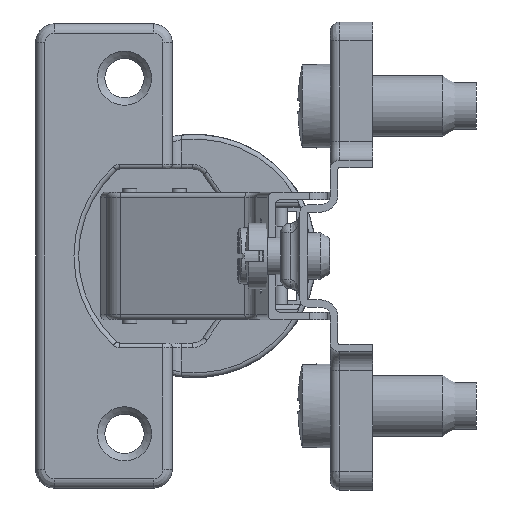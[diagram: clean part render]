
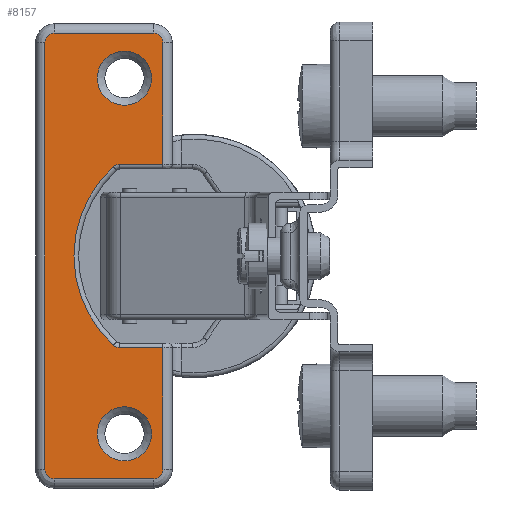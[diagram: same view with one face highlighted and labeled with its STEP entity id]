
A CAD part, left-side view. The second image highlights one B-rep face of the part: STEP entity #8157.
In plain terms, the highlighted planar face has unit normal (-1, 0, 0) as drawn and (0.111, 0.994, 0) by its records, which use the part's own axes.
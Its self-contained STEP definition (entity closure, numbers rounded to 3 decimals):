
#674=LINE('',#13801,#1262);
#688=LINE('',#13929,#1276);
#718=LINE('',#14016,#1306);
#719=LINE('',#14035,#1307);
#721=LINE('',#14055,#1309);
#723=LINE('',#14075,#1311);
#725=LINE('',#14091,#1313);
#1262=VECTOR('',#10973,4.611);
#1276=VECTOR('',#11087,4.611);
#1306=VECTOR('',#11181,13.);
#1307=VECTOR('',#11192,10.6);
#1309=VECTOR('',#11204,45.6);
#1311=VECTOR('',#11216,10.6);
#1313=VECTOR('',#11226,13.);
#1544=PLANE('',#9042);
#1640=FACE_BOUND('',#2555,.T.);
#1641=FACE_BOUND('',#2556,.T.);
#2047=FACE_OUTER_BOUND('',#2554,.T.);
#2554=EDGE_LOOP('',(#6822,#6823,#6824,#6825,#6826,#6827,#6828,#6829,#6830,
#6831,#6832,#6833,#6834,#6835));
#2555=EDGE_LOOP('',(#6836));
#2556=EDGE_LOOP('',(#6837));
#2991=CIRCLE('',#8907,1.);
#3009=CIRCLE('',#8935,1.);
#3011=CIRCLE('',#8939,12.9);
#3034=CIRCLE('',#8985,2.9);
#3036=CIRCLE('',#8988,2.9);
#3040=CIRCLE('',#8995,1.);
#3044=CIRCLE('',#9000,1.);
#3048=CIRCLE('',#9005,1.);
#3052=CIRCLE('',#9010,1.);
#3651=VERTEX_POINT('',#13784);
#3653=VERTEX_POINT('',#13788);
#3657=VERTEX_POINT('',#13799);
#3668=VERTEX_POINT('',#13857);
#3670=VERTEX_POINT('',#13861);
#3683=VERTEX_POINT('',#13924);
#3700=VERTEX_POINT('',#13992);
#3702=VERTEX_POINT('',#13997);
#3708=VERTEX_POINT('',#14014);
#3710=VERTEX_POINT('',#14027);
#3712=VERTEX_POINT('',#14033);
#3714=VERTEX_POINT('',#14047);
#3716=VERTEX_POINT('',#14053);
#3718=VERTEX_POINT('',#14067);
#3720=VERTEX_POINT('',#14073);
#3721=VERTEX_POINT('',#14086);
#4654=EDGE_CURVE('',#3653,#3651,#2991,.T.);
#4659=EDGE_CURVE('',#3657,#3653,#674,.T.);
#4682=EDGE_CURVE('',#3670,#3668,#3009,.T.);
#4686=EDGE_CURVE('',#3651,#3670,#3011,.T.);
#4707=EDGE_CURVE('',#3668,#3683,#688,.T.);
#4739=EDGE_CURVE('',#3700,#3700,#3034,.T.);
#4741=EDGE_CURVE('',#3702,#3702,#3036,.T.);
#4750=EDGE_CURVE('',#3708,#3657,#718,.T.);
#4752=EDGE_CURVE('',#3710,#3708,#3040,.T.);
#4755=EDGE_CURVE('',#3712,#3710,#719,.T.);
#4758=EDGE_CURVE('',#3714,#3712,#3044,.T.);
#4761=EDGE_CURVE('',#3716,#3714,#721,.T.);
#4764=EDGE_CURVE('',#3718,#3716,#3048,.T.);
#4767=EDGE_CURVE('',#3720,#3718,#723,.T.);
#4770=EDGE_CURVE('',#3721,#3720,#3052,.T.);
#4772=EDGE_CURVE('',#3683,#3721,#725,.T.);
#6822=ORIENTED_EDGE('',*,*,#4659,.F.);
#6823=ORIENTED_EDGE('',*,*,#4750,.F.);
#6824=ORIENTED_EDGE('',*,*,#4752,.F.);
#6825=ORIENTED_EDGE('',*,*,#4755,.F.);
#6826=ORIENTED_EDGE('',*,*,#4758,.F.);
#6827=ORIENTED_EDGE('',*,*,#4761,.F.);
#6828=ORIENTED_EDGE('',*,*,#4764,.F.);
#6829=ORIENTED_EDGE('',*,*,#4767,.F.);
#6830=ORIENTED_EDGE('',*,*,#4770,.F.);
#6831=ORIENTED_EDGE('',*,*,#4772,.F.);
#6832=ORIENTED_EDGE('',*,*,#4707,.F.);
#6833=ORIENTED_EDGE('',*,*,#4682,.F.);
#6834=ORIENTED_EDGE('',*,*,#4686,.F.);
#6835=ORIENTED_EDGE('',*,*,#4654,.F.);
#6836=ORIENTED_EDGE('',*,*,#4739,.T.);
#6837=ORIENTED_EDGE('',*,*,#4741,.T.);
#8157=ADVANCED_FACE('',(#2047,#1640,#1641),#1544,.T.);
#8907=AXIS2_PLACEMENT_3D('',#13790,#10961,#10962);
#8935=AXIS2_PLACEMENT_3D('',#13863,#11026,#11027);
#8939=AXIS2_PLACEMENT_3D('',#13871,#11036,#11037);
#8985=AXIS2_PLACEMENT_3D('',#13993,#11157,#11158);
#8988=AXIS2_PLACEMENT_3D('',#13998,#11163,#11164);
#8995=AXIS2_PLACEMENT_3D('',#14029,#11184,#11185);
#9000=AXIS2_PLACEMENT_3D('',#14049,#11196,#11197);
#9005=AXIS2_PLACEMENT_3D('',#14069,#11208,#11209);
#9010=AXIS2_PLACEMENT_3D('',#14088,#11220,#11221);
#9042=AXIS2_PLACEMENT_3D('',#14170,#11312,#11313);
#10961=DIRECTION('center_axis',(0.111,0.994,0.));
#10962=DIRECTION('ref_axis',(0.359,-0.04,0.933));
#10973=DIRECTION('',(0.994,-0.111,0.));
#11026=DIRECTION('center_axis',(0.111,0.994,0.));
#11027=DIRECTION('ref_axis',(0.359,-0.04,-0.933));
#11036=DIRECTION('center_axis',(0.111,0.994,0.));
#11037=DIRECTION('ref_axis',(0.994,-0.111,0.));
#11087=DIRECTION('',(-0.994,0.111,0.));
#11157=DIRECTION('center_axis',(-0.111,-0.994,0.));
#11158=DIRECTION('ref_axis',(0.994,-0.111,0.));
#11163=DIRECTION('center_axis',(-0.111,-0.994,0.));
#11164=DIRECTION('ref_axis',(0.994,-0.111,0.));
#11181=DIRECTION('',(0.,0.,-1.));
#11184=DIRECTION('center_axis',(-0.111,-0.994,0.));
#11185=DIRECTION('ref_axis',(-0.703,0.078,0.707));
#11192=DIRECTION('',(-0.994,0.111,0.));
#11196=DIRECTION('center_axis',(-0.111,-0.994,0.));
#11197=DIRECTION('ref_axis',(0.703,-0.078,0.707));
#11204=DIRECTION('',(0.,0.,1.));
#11208=DIRECTION('center_axis',(-0.111,-0.994,0.));
#11209=DIRECTION('ref_axis',(0.703,-0.078,-0.707));
#11216=DIRECTION('',(0.994,-0.111,0.));
#11220=DIRECTION('center_axis',(-0.111,-0.994,0.));
#11221=DIRECTION('ref_axis',(-0.703,0.078,-0.707));
#11226=DIRECTION('',(0.,0.,-1.));
#11312=DIRECTION('center_axis',(0.111,0.994,0.));
#11313=DIRECTION('ref_axis',(0.,0.,1.));
#13784=CARTESIAN_POINT('',(75.177,18.451,9.539));
#13788=CARTESIAN_POINT('',(74.508,18.525,9.8));
#13790=CARTESIAN_POINT('Origin',(74.508,18.525,8.8));
#13799=CARTESIAN_POINT('',(69.926,19.035,9.8));
#13801=CARTESIAN_POINT('',(75.841,18.377,9.8));
#13857=CARTESIAN_POINT('',(74.508,18.525,-9.8));
#13861=CARTESIAN_POINT('',(75.177,18.451,-9.539));
#13863=CARTESIAN_POINT('Origin',(74.508,18.525,-8.8));
#13871=CARTESIAN_POINT('Origin',(66.547,19.412,0.));
#13924=CARTESIAN_POINT('',(69.926,19.035,-9.8));
#13929=CARTESIAN_POINT('',(71.892,18.816,-9.8));
#13992=CARTESIAN_POINT('',(76.883,18.261,-19.));
#13993=CARTESIAN_POINT('Origin',(74.001,18.582,-19.));
#13997=CARTESIAN_POINT('',(76.883,18.261,19.));
#13998=CARTESIAN_POINT('Origin',(74.001,18.582,19.));
#14014=CARTESIAN_POINT('',(69.926,19.035,22.8));
#14016=CARTESIAN_POINT('',(69.926,19.035,4.65));
#14027=CARTESIAN_POINT('',(70.92,18.925,23.8));
#14029=CARTESIAN_POINT('Origin',(70.92,18.925,22.8));
#14033=CARTESIAN_POINT('',(81.455,17.751,23.8));
#14035=CARTESIAN_POINT('',(73.952,18.587,23.8));
#14047=CARTESIAN_POINT('',(82.449,17.641,22.8));
#14049=CARTESIAN_POINT('Origin',(81.455,17.751,22.8));
#14053=CARTESIAN_POINT('',(82.449,17.641,-22.8));
#14055=CARTESIAN_POINT('',(82.449,17.641,11.4));
#14067=CARTESIAN_POINT('',(81.455,17.751,-23.8));
#14069=CARTESIAN_POINT('Origin',(81.455,17.751,-22.8));
#14073=CARTESIAN_POINT('',(70.92,18.925,-23.8));
#14075=CARTESIAN_POINT('',(79.219,18.,-23.8));
#14086=CARTESIAN_POINT('',(69.926,19.035,-22.8));
#14088=CARTESIAN_POINT('Origin',(70.92,18.925,-22.8));
#14091=CARTESIAN_POINT('',(69.926,19.035,-11.4));
#14170=CARTESIAN_POINT('Origin',(76.984,18.249,0.));
